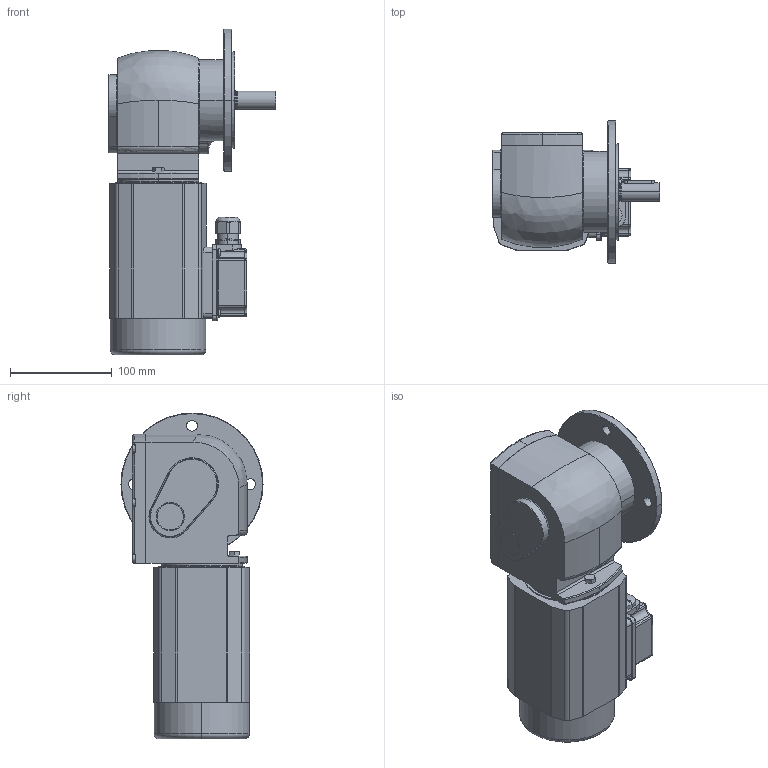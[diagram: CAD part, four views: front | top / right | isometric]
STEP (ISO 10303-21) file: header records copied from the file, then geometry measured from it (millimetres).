
FILE_DESCRIPTION (( 'STEP AP214' ), '1' );
FILE_NAME ('SN13F_120W_Gleichstrom-Motor_B.STEP', '2022-08-05T07:25:57', ( '' ), ( '' ), 'SwSTEP 2.0', 'SolidWorks 2021', '' );
FILE_SCHEMA (( 'AUTOMOTIVE_DESIGN' ));
Length unit declared in the file: millimetre
Products named in the file (15): NBR_WDR_20x42x7; slotted cheese head screw_din_DIN EN ISO 1207 - M5 x 20 - 20C; 03-M-252 I 120W_3000Upm; SN13F_120W_Gleichstrom-Motor_B; socket set screw flat point_iso_ISO 4026 - M6 x 30-C; 13-D-003_3D-Export; PF_A6x6x30; hex screw gradec_iso_ISO 4018 - M6 x 20-NC; 13-G-006_3D-Export; slotted cheese head screw_iso_ISO 1207 - M5 x 12 - 12C; K_26x6,5; 13F-W-004_3D-Export; SN13F_3D-Export; slotted cheese head screw_iso_ISO 1207 - M5 x 20 - 20C; 13F-F-006
Assembly tree (26 placements, depth 3):
  SN13F_120W_Gleichstrom-Motor_B
    SN13F_3D-Export
      13-G-006_3D-Export
      13-D-003_3D-Export
      13F-W-004_3D-Export
      13F-F-006
      PF_A6x6x30
      K_26x6,5
      NBR_WDR_20x42x7
      slotted cheese head screw_din_DIN EN ISO 1207 - M5 x 20 - 20C  x4
      slotted cheese head screw_iso_ISO 1207 - M5 x 12 - 12C  x8
      slotted cheese head screw_iso_ISO 1207 - M5 x 20 - 20C  x2
      hex screw gradec_iso_ISO 4018 - M6 x 20-NC
      socket set screw flat point_iso_ISO 4026 - M6 x 30-C  x2
    03-M-252 I 120W_3000Upm
Bounding box: 164.7 x 140 x 321 mm (x, y, z)
Volume: 2929947.2 mm3; surface area: 261729.6 mm2
Topology: 26 solids, 27 shells, 1049 faces, 2608 edges, 1656 vertices
Faces by surface type: plane 350, cylinder 330, cone 181, torus 118, bspline 46, sphere 24
Entity records: 30015 total; most frequent: CARTESIAN_POINT 7433, DIRECTION 4652, ORIENTED_EDGE 4404, EDGE_CURVE 2202, AXIS2_PLACEMENT_3D 1867, VERTEX_POINT 1416, EDGE_LOOP 1010, CIRCLE 992
